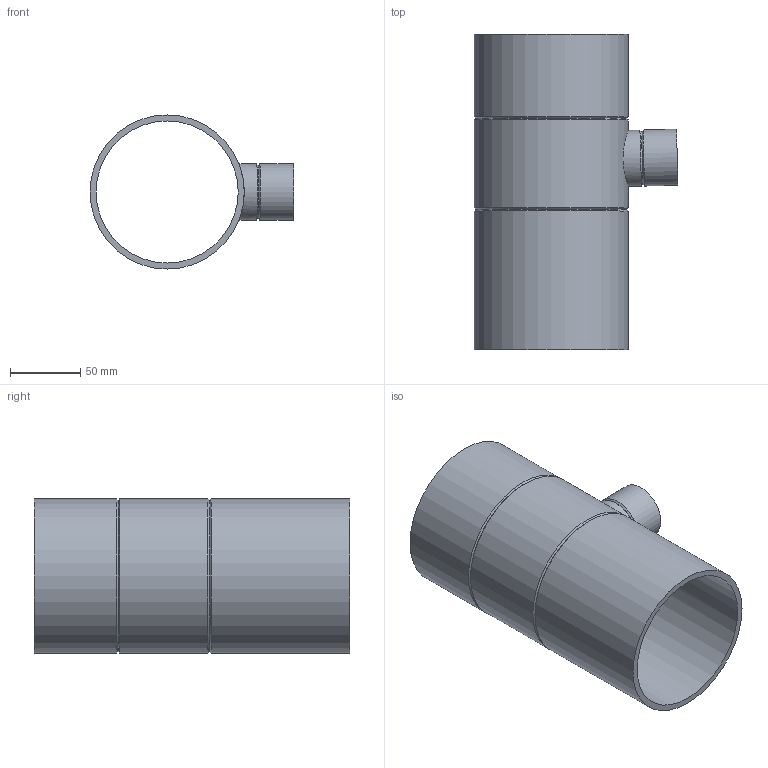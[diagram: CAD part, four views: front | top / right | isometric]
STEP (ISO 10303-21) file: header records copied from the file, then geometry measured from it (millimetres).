
FILE_DESCRIPTION(/* description */ (''),/* implementation_level */ '2;1');
FILE_NAME(/* name */ 'Z:\Geberit\Export\NewStep\367159.stp',/* time_stamp */ '2014-04-02T07:55:52+02:00',/* author */ ('nelson'),/* organization */ (''),/* preprocessor_version */ 'ST-DEVELOPER v15.2',/* originating_system */ 'Autodesk Inventor 2014',/* authorisation */ '');
FILE_SCHEMA (('AUTOMOTIVE_DESIGN { 1 0 10303 214 3 1 1 }'));
Length unit declared in the file: millimetre
Products named in the file (1): 367159
Bounding box: 145.49 x 225 x 110 mm (x, y, z)
Volume: 328986.9 mm3; surface area: 160134.7 mm2
Topology: 1 solids, 1 shells, 16 faces, 37 edges, 23 vertices
Faces by surface type: cylinder 7, cone 6, plane 3
Full cylindrical faces by diameter (mm): 34 x1, 40 x2, 101.4 x1, 110 x3
Entity records: 503 total; most frequent: CARTESIAN_POINT 181, DIRECTION 64, EDGE_LOOP 34, ORIENTED_EDGE 34, AXIS2_PLACEMENT_3D 32, FACE_BOUND 22, VERTEX_POINT 17, EDGE_CURVE 17
